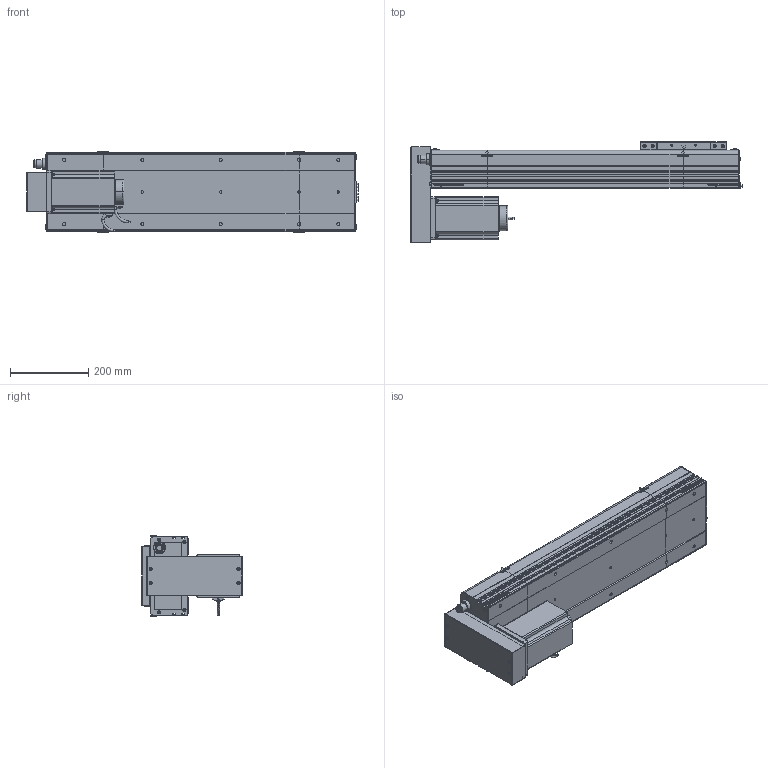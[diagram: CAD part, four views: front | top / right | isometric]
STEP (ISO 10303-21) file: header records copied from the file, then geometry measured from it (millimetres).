
FILE_DESCRIPTION (( 'STEP AP214' ), '1' );
FILE_NAME ('D20 CSH BM S500.STEP', '2010-06-30T08:00:21', ( 'Conseil Régional Haute-Normandie' ), ( 'Conseil Régional Haute-Normandie' ), 'SwSTEP 2.0', 'SolidWorks 2010', '' );
FILE_SCHEMA (( 'AUTOMOTIVE_DESIGN' ));
Length unit declared in the file: millimetre
Products named in the file (31): vis M5 L47_Default; Couvercle_Default; Plaque de Bout Tail D20_Default; Couvercle Head BM_Default; Corp Tail D20+100_Default; Cache Moteur BM D20_Default; vis M5 L30_Default; ecrou_Default; Corp Head BM D20_Default; clavette; Corp D20 S500_Default; Plaque De Serrage D20_Default; Conecteur_Default; Conecteur2_Default; Corp S500_Default; codeur 110BLDC170A-630x; corps 110BLDC170A-630x; avant 110BLDC170A-630x; Couvercle S500_Default; Glissiere_Default; Support Chariot D20_Default; Chariot D20_Default; Moteur motionking 110BLDC170A-640x; Support moteur BM D20_Default; Plaque de Bout Head BM D20_Default; Head BM D20_Default; Plaque De Serrage Head BM D20_Default; vis M5 L15_Default; Tail D20+100_Default; D20 CSH BM S500
Assembly tree (58 placements, depth 4):
  D20 CSH BM S500
    Head BM D20_Default
      vis M5 L47_Default  x4
      ecrou_Default  x4
      vis M5 L15_Default  x6
      vis M5 L30_Default  x4
      Plaque de Bout Head BM D20_Default
      Support moteur BM D20_Default
      Moteur motionking 110BLDC170A-640x
        codeur 110BLDC170A-630x
        avant 110BLDC170A-630x
        Conecteur_Default
        clavette
        Conecteur2_Default
        corps 110BLDC170A-630x
      Couvercle Head BM_Default
      Cache Moteur BM D20_Default
      Plaque De Serrage Head BM D20_Default
      Corp Head BM D20_Default
    Chariot D20_Default
      vis M5 L15_Default  x8
      Support Chariot D20_Default
      Chariot D20_Default
      Glissiere_Default
    Tail D20+100_Default
      Plaque de Bout Tail D20_Default
      Couvercle_Default
      vis M5 L15_Default  x6
      Plaque De Serrage D20_Default
      Corp Tail D20+100_Default
    Corp D20 S500_Default
      Couvercle S500_Default
      Corp S500_Default
Bounding box: 847.7 x 257.5 x 206 mm (x, y, z)
Volume: 7980742.3 mm3; surface area: 1522906.6 mm2
Topology: 95 solids, 95 shells, 3502 faces, 8833 edges, 5757 vertices
Faces by surface type: plane 1971, bspline 806, cylinder 587, torus 79, cone 59
Entity records: 156433 total; most frequent: CARTESIAN_POINT 81802, ORIENTED_EDGE 14814, DIRECTION 11027, EDGE_CURVE 7407, VERTEX_POINT 4905, VECTOR 4871, LINE 4871, EDGE_LOOP 3144
